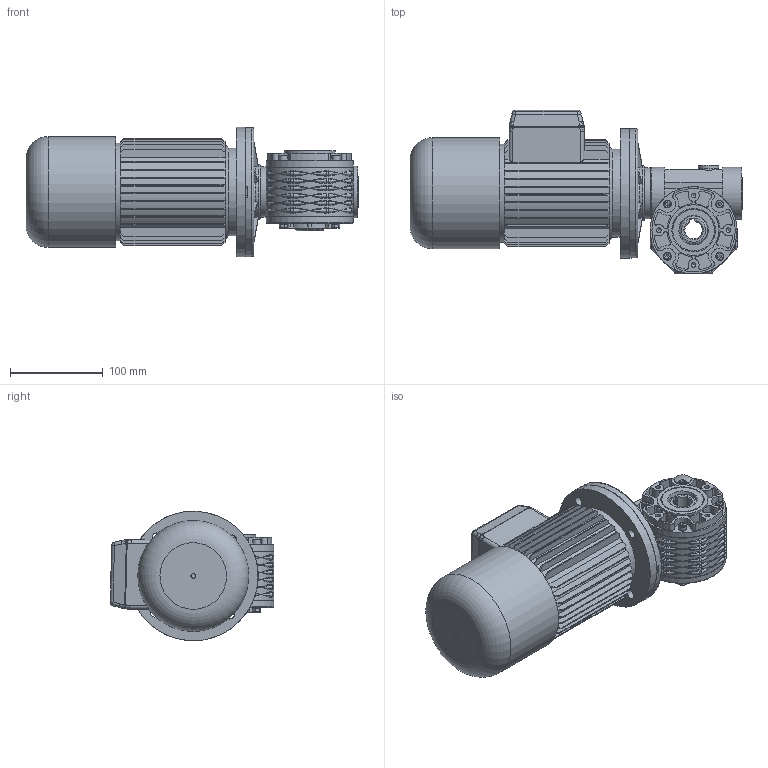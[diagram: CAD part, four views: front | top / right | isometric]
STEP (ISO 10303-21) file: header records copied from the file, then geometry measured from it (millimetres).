
FILE_DESCRIPTION((''),'2;1');
FILE_NAME('Y:\Archivi Inventor\Prog_01\GRAND_05\Figurini\MRV05 VECCHIO\63 B5 - B\MRV05_63B5_FP1_B.stp','2014-01-14T11:07:10',('tech3'),(''),'Autodesk Inventor 2013','Autodesk Inventor 2013','');
FILE_SCHEMA(('AUTOMOTIVE_DESIGN { 1 0 10303 214 1 1 1 1 }'));
Length unit declared in the file: millimetre
Products named in the file (19): Assieme1; V05_PRIMARIO; 0100501-A1xfigurini; 0100502; 0100504; 0100529-A0; RCA_35x7; 0100528-A0; PARAOLIO 20x30x8; Guarnizione 3_8 GAS; UNI 6592 5.3 x 10; PARAOLIO 30x45x8; DIN EN 24 017  M5 x 16; DIN EN ISO 4762 M5 x 30; Tappo 3_8 GAS_esagn_incsst; Corona MRV05 F=19 x figurini; UNI 5931  M 5 x  16; 0100506; motori B5 brake 63
Assembly tree (29 placements, depth 3):
  Assieme1
    V05_PRIMARIO
      0100501-A1xfigurini
      0100502
      0100504
      0100529-A0  x2
      RCA_35x7
      0100528-A0
      PARAOLIO 20x30x8
      Guarnizione 3_8 GAS
      UNI 6592 5.3 x 10
      PARAOLIO 30x45x8  x2
      DIN EN 24 017  M5 x 16  x4
      DIN EN ISO 4762 M5 x 30  x4
      Tappo 3_8 GAS_esagn_incsst
      Corona MRV05 F=19 x figurini
      UNI 5931  M 5 x  16  x4
    0100506
    motori B5 brake 63
Bounding box: 358.65 x 176.77 x 139.95 mm (x, y, z)
Volume: 2394457 mm3; surface area: 431811.1 mm2
Topology: 29 solids, 29 shells, 1593 faces, 3954 edges, 2529 vertices
Faces by surface type: plane 810, cylinder 489, torus 123, bspline 92, cone 75, sphere 4
Full cylindrical faces by diameter (mm): 4.134 x12, 4.917 x4, 5 x13, 5.3 x1, 5.5 x20, 5.75 x4, 6.88 x4, 8 x1, 8.5 x16, 9.5 x4, 10 x1, 11 x1, 14.95 x1, 16.3 x1, 16.5 x1, 22 x2, 23.105 x1, 28 x1, 30 x4, 30.8 x1, 34.105 x2, 35 x5, 42 x2, 45 x5, 55 x3, 56 x2, 60 x1, 63 x2, 70 x6, 91 x1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
Entity records: 71060 total; most frequent: CARTESIAN_POINT 36153, DIRECTION 7265, ORIENTED_EDGE 6724, EDGE_CURVE 3362, AXIS2_PLACEMENT_3D 2795, VERTEX_POINT 2207, EDGE_LOOP 1757, VECTOR 1675
